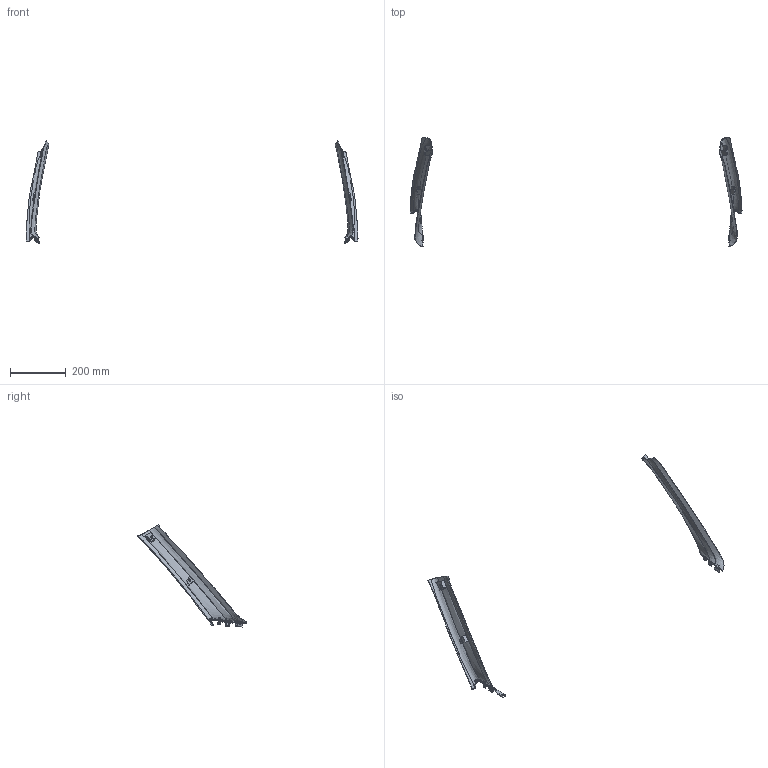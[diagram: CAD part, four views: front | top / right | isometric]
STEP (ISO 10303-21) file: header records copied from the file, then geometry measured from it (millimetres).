
FILE_DESCRIPTION(/* description */ ('AP242 STEP file','CAx-IF Rec.Pracs.---Representation and Presentation of Product Manufacturing Information (PMI)---4.0.9---2020-12-09','CAx-IF Rec.Pracs.---User Defined Attributes---1.8---2021-02-18','CAx-IF Rec.Pracs.---3D Tessellated Geometry---1.0---2015-12-17','CAx-IF Rec.Pracs.---Model Styling and Organization---1.6---2018-08-17'),/* implementation_level */ '2;1');
FILE_NAME(/* name */ '11111-99999.stp',/* time_stamp */ '2024-03-03T14:07:42+09:00',/* author */ (''),/* organization */ (''),/* preprocessor_version */ 'ST-DEVELOPER v20',/* originating_system */ 'Elysium STEP Translator v10.0.0.7',/* authorisation */ '');
FILE_SCHEMA (('AP242_MANAGED_MODEL_BASED_3D_ENGINEERING_MIM_LF { 1 0 10303 442 4 1 4 }'));
Products named in the file (3): 11122-99999A_000; 11111-99999A_000; 11111-99999
Assembly tree (2 placements, depth 2):
  11111-99999
    11122-99999A_000
    11111-99999A_000
Bounding box: 1192.69 x 393.66 x 366.52 mm (x, y, z)
Volume: 206217.8 mm3; surface area: 211657.7 mm2
Topology: 28 solids, 28 shells, 580 faces, 1717 edges, 1245 vertices
Faces by surface type: bspline 398, plane 158, extrusion 22, cylinder 2
Entity records: 62192 total; most frequent: CARTESIAN_POINT 38391, COORDINATES_LIST 3760, TESSELLATED_CURVE_SET 3720, ORIENTED_EDGE 3336, STYLED_ITEM 2914, EDGE_CURVE 1668, B_SPLINE_CURVE_WITH_KNOTS 1454, VERTEX_POINT 1144
